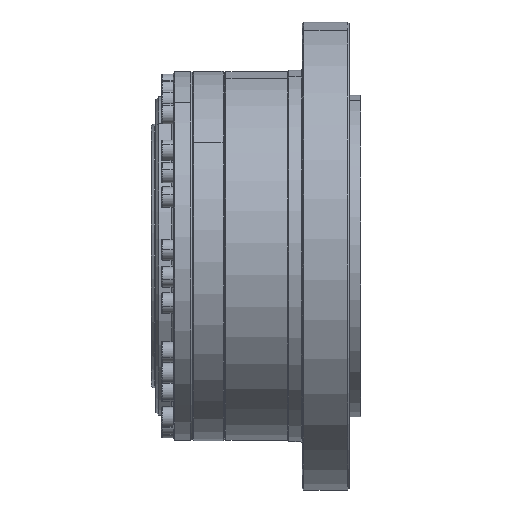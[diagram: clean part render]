
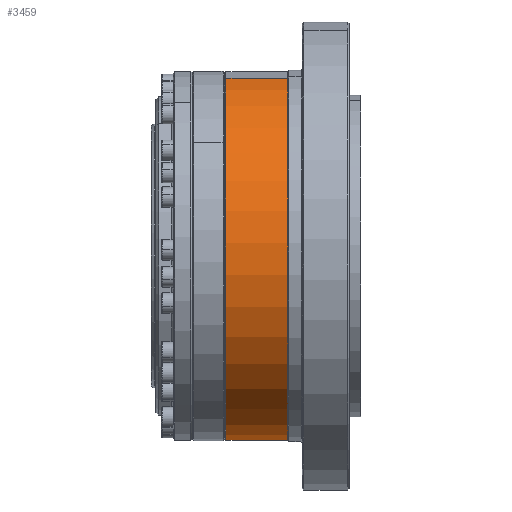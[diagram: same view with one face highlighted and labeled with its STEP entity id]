
A CAD part, front view. The second image highlights one B-rep face of the part: STEP entity #3459.
In plain terms, the highlighted cylindrical face has radius 63 mm (diameter 126 mm), a partial arc.
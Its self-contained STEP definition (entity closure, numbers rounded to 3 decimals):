
#3459 = ADVANCED_FACE ( 'NONE', ( #15341 ), #14620, .T. ) ;
#4141 = DIRECTION ( 'NONE',  ( -1., 0., 0. ) ) ;
#4372 = VERTEX_POINT ( 'NONE', #20446 ) ;
#5272 = ORIENTED_EDGE ( 'NONE', *, *, #27267, .T. ) ;
#6274 = LINE ( 'NONE', #6539, #24514 ) ;
#6539 = CARTESIAN_POINT ( 'NONE',  ( 0., 0., -63. ) ) ;
#6736 = CARTESIAN_POINT ( 'NONE',  ( 24.7, 0., -63. ) ) ;
#7699 = CARTESIAN_POINT ( 'NONE',  ( 0., 0., 0. ) ) ;
#8100 = CARTESIAN_POINT ( 'NONE',  ( 3.7, 0., 0. ) ) ;
#8837 = ORIENTED_EDGE ( 'NONE', *, *, #23762, .F. ) ;
#9421 = VECTOR ( 'NONE', #25348, 1000. ) ;
#10481 = DIRECTION ( 'NONE',  ( 0., 0., 1. ) ) ;
#10594 = VERTEX_POINT ( 'NONE', #22492 ) ;
#10764 = EDGE_LOOP ( 'NONE', ( #19830, #5272, #11080, #8837 ) ) ;
#11080 = ORIENTED_EDGE ( 'NONE', *, *, #22301, .T. ) ;
#14130 = CARTESIAN_POINT ( 'NONE',  ( 24.7, 0., 0. ) ) ;
#14620 = CYLINDRICAL_SURFACE ( 'NONE', #17664, 63. ) ;
#14796 = DIRECTION ( 'NONE',  ( -1., 0., 0. ) ) ;
#15341 = FACE_OUTER_BOUND ( 'NONE', #10764, .T. ) ;
#15758 = CARTESIAN_POINT ( 'NONE',  ( 0., 0., 63. ) ) ;
#16489 = DIRECTION ( 'NONE',  ( 0., 0., 1. ) ) ;
#17664 = AXIS2_PLACEMENT_3D ( 'NONE', #7699, #14796, #19459 ) ;
#18147 = VERTEX_POINT ( 'NONE', #30795 ) ;
#19459 = DIRECTION ( 'NONE',  ( 0., 0., 1. ) ) ;
#19830 = ORIENTED_EDGE ( 'NONE', *, *, #30639, .F. ) ;
#20446 = CARTESIAN_POINT ( 'NONE',  ( 3.7, 0., -63. ) ) ;
#21503 = CIRCLE ( 'NONE', #23730, 63. ) ;
#22301 = EDGE_CURVE ( 'NONE', #18147, #10594, #28429, .T. ) ;
#22492 = CARTESIAN_POINT ( 'NONE',  ( 3.7, 0., 63. ) ) ;
#23730 = AXIS2_PLACEMENT_3D ( 'NONE', #8100, #24751, #10481 ) ;
#23762 = EDGE_CURVE ( 'NONE', #4372, #10594, #21503, .T. ) ;
#24030 = VERTEX_POINT ( 'NONE', #6736 ) ;
#24514 = VECTOR ( 'NONE', #4141, 1000. ) ;
#24751 = DIRECTION ( 'NONE',  ( -1., 0., 0. ) ) ;
#25348 = DIRECTION ( 'NONE',  ( -1., 0., 0. ) ) ;
#27267 = EDGE_CURVE ( 'NONE', #24030, #18147, #29487, .T. ) ;
#28429 = LINE ( 'NONE', #15758, #9421 ) ;
#28691 = AXIS2_PLACEMENT_3D ( 'NONE', #14130, #30785, #16489 ) ;
#29487 = CIRCLE ( 'NONE', #28691, 63. ) ;
#30639 = EDGE_CURVE ( 'NONE', #24030, #4372, #6274, .T. ) ;
#30785 = DIRECTION ( 'NONE',  ( -1., 0., 0. ) ) ;
#30795 = CARTESIAN_POINT ( 'NONE',  ( 24.7, 0., 63. ) ) ;
